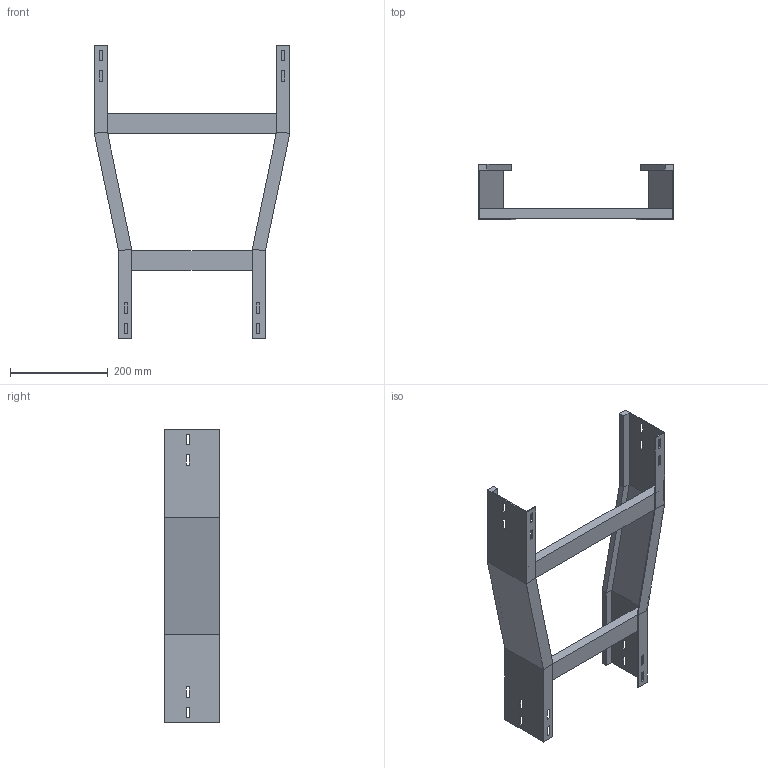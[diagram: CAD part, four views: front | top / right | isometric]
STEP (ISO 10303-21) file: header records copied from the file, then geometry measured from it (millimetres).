
FILE_DESCRIPTION (( 'STEP AP214' ), '1' );
FILE_NAME ('B2X20B3J400XX.step', '2025-09-02T17:14:20', ( '' ), ( '' ), 'SwSTEP 2.0', 'SolidWorks 2023', '' );
FILE_SCHEMA (( 'AUTOMOTIVE_DESIGN' ));
Length unit declared in the file: millimetre
Products named in the file (4): B2X20B3J400XX; SPONDA RID. CENTRALE 400-300_H112.5; TRAVERSINO_300; TRAVERSINO_400
Assembly tree (3 placements, depth 2):
  B2X20B3J400XX
    SPONDA RID. CENTRALE 400-300_H112.5
    TRAVERSINO_300
    TRAVERSINO_400
Bounding box: 400 x 112.5 x 600 mm (x, y, z)
Volume: 1120804.9 mm3; surface area: 462173.2 mm2
Topology: 4 solids, 4 shells, 128 faces, 328 edges, 208 vertices
Faces by surface type: plane 128
Entity records: 3950 total; most frequent: CARTESIAN_POINT 670, ORIENTED_EDGE 656, DIRECTION 596, LINE 328, VECTOR 328, EDGE_CURVE 328, VERTEX_POINT 208, EDGE_LOOP 160
